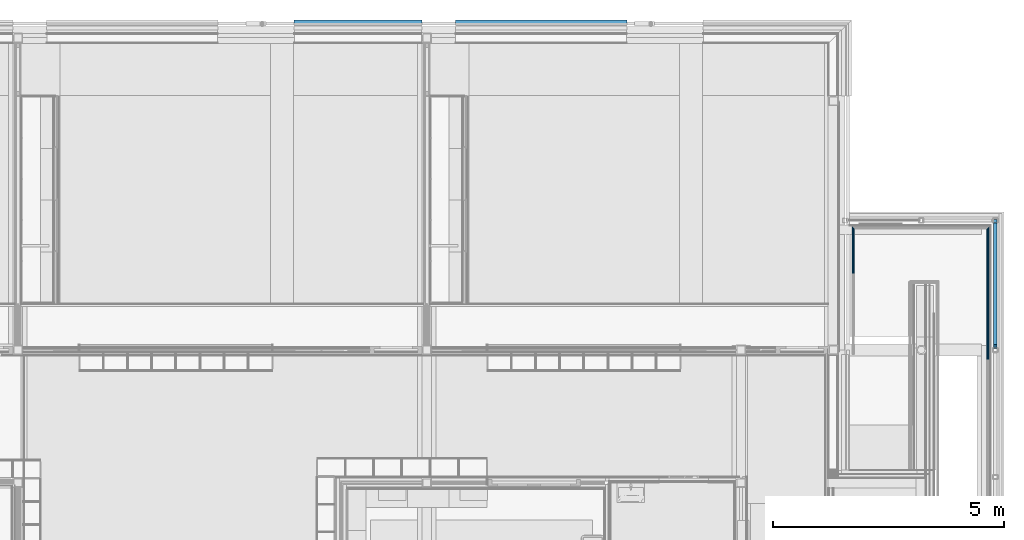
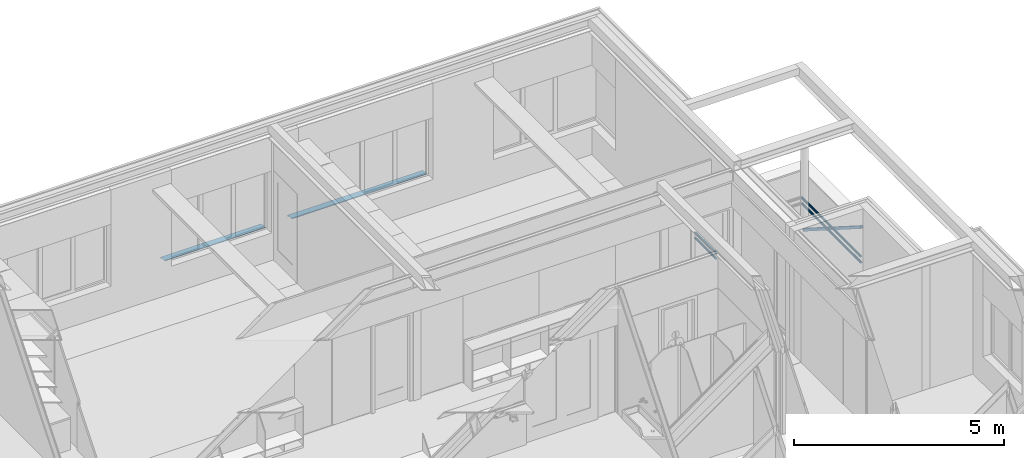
# One storey, part 26 of 137: 4 members, 3 beams, 1 element without a shape of its own.
"""IFC2X3 building model written with IfcOpenShell, lengths in millimetres."""

from ifc_helpers import new_model, entity, si_unit, converted_unit, derived_unit, money_unit, direction, frame, origin_with_axes, place, context, subcontext, project, spatial, faceted_brep, material, type_object, element, aggregate, save


model = new_model("IFC2X3")

# Units and contexts
model_context = context("Model", 3, precision=0.01, world=origin_with_axes(), true_north=direction((0.0, 1.0)))
body_context = subcontext(model_context, "Body", "Model", "MODEL_VIEW")
ifc_project = project(units=[si_unit("LENGTHUNIT", "METRE", prefix="MILLI"), si_unit("AREAUNIT", "SQUARE_METRE"), si_unit("VOLUMEUNIT", "CUBIC_METRE"), converted_unit("PLANEANGLEUNIT", "DEGREE", entity("IfcPlaneAngleMeasure", 0.0174532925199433), si_unit("PLANEANGLEUNIT", "RADIAN"), dimensions=[0, 0, 0, 0, 0, 0, 0]), money_unit("EUR"), converted_unit("TIMEUNIT", "Year", entity("IfcTimeMeasure", 31556926.0), si_unit("TIMEUNIT", "SECOND"), dimensions=[0, 0, 1, 0, 0, 0, 0]), si_unit("MASSUNIT", "GRAM", prefix="KILO"), si_unit("THERMODYNAMICTEMPERATUREUNIT", "DEGREE_CELSIUS"), si_unit("LUMINOUSINTENSITYUNIT", "LUMEN"), si_unit("ENERGYUNIT", "JOULE", prefix="MEGA"), derived_unit("THERMALCONDUCTANCEUNIT", [(si_unit("POWERUNIT", "WATT"), 1), (si_unit("LENGTHUNIT", "METRE"), -1), (si_unit("THERMODYNAMICTEMPERATUREUNIT", "KELVIN"), -1)]), derived_unit("SPECIFICHEATCAPACITYUNIT", [(si_unit("ENERGYUNIT", "JOULE"), 1), (si_unit("MASSUNIT", "GRAM", prefix="KILO"), -1), (si_unit("THERMODYNAMICTEMPERATUREUNIT", "KELVIN"), -1)]), derived_unit("MASSDENSITYUNIT", [(si_unit("MASSUNIT", "GRAM", prefix="KILO"), 1), (si_unit("VOLUMEUNIT", "CUBIC_METRE"), -1)])], contexts=[model_context])

# Site, building, storey
site_placement = place(None, origin_with_axes())
site = spatial("IfcSite", under=ifc_project, at=site_placement, Name="Site", CompositionType="ELEMENT")
building_placement = place(site_placement, origin_with_axes())
building = spatial("IfcBuilding", under=site, at=building_placement, Name="Naam gebouw", CompositionType="ELEMENT")
storey_placement = place(building_placement, frame((0.0, 0.0, 3960.0), z_axis=(0.0, 0.0, 1.0), x_axis=(1.0, 0.0, 0.0)))
storey = spatial("IfcBuildingStorey", under=building, at=storey_placement, Name="1e verdieping", CompositionType="ELEMENT", Elevation=3960.0)

# Beams
ifc_material_1 = material(Name="Metaal - Aluminium")
beam_type_1 = type_object("IfcBeamType", Name="41 Waterslag 218 x 75", PredefinedType="BEAM")
beam_1_placement = place(storey_placement, frame((14824.99942456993, 29425.0, 750.0), z_axis=(0.0, 0.0, 1.0), x_axis=(0.0, -1.0, 0.0)))
element("IfcBeam", 1, at=beam_1_placement, inside=storey, type_object=beam_type_1, material=ifc_material_1, Name="h4 Aluminium, aluminiumlegeringen_Regenwaterafvoer-x", ObjectType="BEAM", context=body_context, shape_type="Brep", body=[
    faceted_brep([(178.0000000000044, 0.0, 49.99999999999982), (178.0000000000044, 2770.0, 49.99999999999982), (175.0000000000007, 2770.0, 49.99999999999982), (175.0000000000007, 0.0, 49.99999999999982), (177.9999999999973, 0.0, 27.27462510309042), (177.9999999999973, 2770.0, 27.27462510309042), (-36.99999999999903, 2770.0, 12.08231741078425), (-36.99999999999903, 2770.0, -21.99999999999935), (-21.99999999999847, 2770.0, -21.99999999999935), (-21.99999999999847, 2770.0, -24.99999999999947), (-39.99999999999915, 2770.0, -24.99999999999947), (-39.99999999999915, 2770.0, 15.00000000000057), (175.0000000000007, 2770.0, 30.00000000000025), (175.0000000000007, 0.0, 30.00000000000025), (-39.99999999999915, 0.0, 15.00000000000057), (-39.99999999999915, 0.0, -24.99999999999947), (-21.99999999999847, 0.0, -24.99999999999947), (-21.99999999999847, 0.0, -21.99999999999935), (-36.99999999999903, 0.0, -21.99999999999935), (-36.99999999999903, 0.0, 12.08231741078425)], [[[0, 1, 2, 3]], [[4, 5, 1, 0]], [[2, 1, 5, 6, 7, 8, 9, 10, 11, 12]], [[3, 2, 12, 13]], [[4, 0, 3, 13, 14, 15, 16, 17, 18, 19]], [[19, 6, 5, 4]], [[18, 7, 6, 19]], [[17, 8, 7, 18]], [[16, 9, 8, 17]], [[15, 10, 9, 16]], [[14, 11, 10, 15]], [[13, 12, 11, 14]]]),
])
beam_2_placement = place(storey_placement, frame((18314.99942456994, 29425.0, 750.0), z_axis=(0.0, 0.0, 1.0), x_axis=(0.0, -1.0, 0.0)))
element("IfcBeam", 2, at=beam_2_placement, inside=storey, type_object=beam_type_1, material=ifc_material_1, Name="h4 Aluminium, aluminiumlegeringen_Regenwaterafvoer-x", ObjectType="BEAM", context=body_context, shape_type="Brep", body=[
    faceted_brep([(178.0000000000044, 0.0, 49.99999999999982), (178.0000000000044, 3719.999999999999, 49.99999999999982), (175.0000000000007, 3719.999999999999, 49.99999999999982), (175.0000000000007, 0.0, 49.99999999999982), (177.9999999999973, 0.0, 27.27462510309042), (177.9999999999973, 3719.999999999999, 27.27462510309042), (-36.99999999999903, 3719.999999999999, 12.08231741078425), (-36.99999999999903, 3719.999999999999, -21.99999999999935), (-21.99999999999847, 3719.999999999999, -21.99999999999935), (-21.99999999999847, 3719.999999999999, -24.99999999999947), (-39.99999999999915, 3719.999999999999, -24.99999999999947), (-39.99999999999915, 3719.999999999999, 15.00000000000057), (175.0000000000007, 3719.999999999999, 30.00000000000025), (175.0000000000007, 0.0, 30.00000000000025), (-39.99999999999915, 0.0, 15.00000000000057), (-39.99999999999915, 0.0, -24.99999999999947), (-21.99999999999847, 0.0, -24.99999999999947), (-21.99999999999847, 0.0, -21.99999999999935), (-36.99999999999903, 0.0, -21.99999999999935), (-36.99999999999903, 0.0, 12.08231741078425)], [[[0, 1, 2, 3]], [[4, 5, 1, 0]], [[2, 1, 5, 6, 7, 8, 9, 10, 11, 12]], [[3, 2, 12, 13]], [[4, 0, 3, 13, 14, 15, 16, 17, 18, 19]], [[19, 6, 5, 4]], [[18, 7, 6, 19]], [[17, 8, 7, 18]], [[16, 9, 8, 17]], [[15, 10, 9, 16]], [[14, 11, 10, 15]], [[13, 12, 11, 14]]]),
])

# Railing, members
railing_type = type_object("IfcRailingType", Name="Railing Type", PredefinedType="NOTDEFINED")
railing_placement = place(storey_placement, frame((29909.99996519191, 18712.73639114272, -3419.999937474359), z_axis=(0.0, 0.0, 1.0), x_axis=(1.0, 0.0, 0.0)))
railing = element("IfcRailing", 3, at=railing_placement, inside=storey, type_object=railing_type, Name="34_Reling-x", PredefinedType="NOTDEFINED")
ifc_material_2 = material(Name="Metaal - RVS")
member_type = type_object("IfcMemberType", Name="IfcMember", PredefinedType="USERDEFINED")
member_1_placement = place(railing_placement, frame((-67.99996519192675, 4832.119917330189, 3352.917960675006), z_axis=(0.0, 0.0, 1.0), x_axis=(1.0, 0.0, 0.0)))
member_1 = element("IfcMember", 4, at=member_1_placement, type_object=member_type, material=ifc_material_2, Name="h3 Staal legeringen_", context=body_context, shape_type="Brep", body=[
    faceted_brep([(-30.00000000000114, -1413.036642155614, 37.08203932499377), (-29.54423259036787, -1414.613935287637, 42.29148465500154), (-29.54423259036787, 1392.575678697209, 42.29148465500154), (-30.00000000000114, 1392.119911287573, 37.08203932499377), (-29.54423259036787, -1411.459349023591, 31.87259399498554), (-28.19077862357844, -1409.929981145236, 26.82143502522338), (-25.98076211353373, -1408.495007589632, 22.08203932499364), (-22.98133329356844, -1407.19802930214, 17.79841103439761), (-19.28362829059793, -1406.078454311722, 14.10070603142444), (-15.00000000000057, -1405.170300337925, 11.10127721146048), (-10.26060429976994, -1404.501161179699, 8.891260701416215), (-5.209445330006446, -1404.091368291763, 7.537806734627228), (0.0, -1403.953373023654, 7.082039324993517), (5.209445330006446, -1404.091368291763, 7.537806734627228), (10.26060429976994, -1404.501161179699, 8.891260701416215), (15.00000000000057, -1405.170300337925, 11.10127721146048), (19.28362829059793, -1406.078454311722, 14.10070603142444), (22.98133329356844, -1407.19802930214, 17.79841103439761), (25.98076211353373, -1408.495007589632, 22.08203932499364), (28.19077862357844, -1409.929981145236, 26.82143502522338), (29.54423259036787, -1411.459349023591, 31.87259399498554), (30.00000000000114, -1413.036642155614, 37.08203932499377), (29.54423259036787, -1414.613935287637, 42.29148465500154), (28.19077862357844, -1416.143303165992, 47.3426436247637), (25.98076211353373, -1417.578276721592, 52.08203932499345), (22.98133329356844, -1418.875255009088, 56.36566761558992), (19.28362829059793, -1419.994829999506, 60.06337261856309), (15.00000000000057, -1420.902983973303, 63.06280143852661), (10.26060429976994, -1421.572123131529, 65.27281794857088), (5.209445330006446, -1421.981916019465, 66.62627191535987), (0.0, -1422.119911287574, 67.08203932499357), (-5.209445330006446, -1421.981916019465, 66.62627191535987), (-10.26060429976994, -1421.572123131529, 65.27281794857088), (-15.00000000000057, -1420.902983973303, 63.06280143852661), (-19.28362829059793, -1419.994829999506, 60.06337261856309), (-22.98133329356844, -1418.875255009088, 56.36566761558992), (-25.98076211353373, -1417.578276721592, 52.08203932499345), (-28.19077862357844, -1416.143303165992, 47.3426436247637), (-28.19077862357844, 1393.929132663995, 47.3426436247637), (-25.98076211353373, 1396.13914917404, 52.08203932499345), (-22.98133329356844, 1399.138577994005, 56.36566761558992), (-19.28362829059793, 1402.836282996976, 60.06337261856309), (-15.00000000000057, 1407.119911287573, 63.06280143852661), (-10.26060429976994, 1411.859306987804, 65.27281794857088), (-5.209445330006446, 1416.910465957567, 66.62627191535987), (0.0, 1422.119911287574, 67.08203932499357), (5.209445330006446, 1427.32935661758, 66.62627191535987), (10.26060429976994, 1432.380515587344, 65.27281794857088), (15.00000000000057, 1437.119911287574, 63.06280143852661), (19.28362829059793, 1441.403539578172, 60.06337261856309), (22.98133329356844, 1445.101244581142, 56.36566761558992), (25.98076211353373, 1448.100673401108, 52.08203932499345), (28.19077862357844, 1450.310689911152, 47.3426436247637), (29.54423259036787, 1451.664143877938, 42.29148465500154), (30.00000000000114, 1452.119911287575, 37.08203932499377), (29.54423259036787, 1451.664143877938, 31.87259399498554), (28.19077862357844, 1450.310689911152, 26.82143502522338), (25.98076211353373, 1448.100673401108, 22.08203932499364), (22.98133329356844, 1445.101244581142, 17.79841103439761), (19.28362829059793, 1441.403539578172, 14.10070603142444), (15.00000000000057, 1437.119911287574, 11.10127721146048), (10.26060429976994, 1432.380515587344, 8.891260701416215), (5.209445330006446, 1427.32935661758, 7.537806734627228), (0.0, 1422.119911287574, 7.082039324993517), (-5.209445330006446, 1416.910465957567, 7.537806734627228), (-10.26060429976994, 1411.859306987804, 8.891260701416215), (-15.00000000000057, 1407.119911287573, 11.10127721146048), (-19.28362829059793, 1402.836282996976, 14.10070603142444), (-22.98133329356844, 1399.138577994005, 17.79841103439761), (-25.98076211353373, 1396.13914917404, 22.08203932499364), (-28.19077862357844, 1393.929132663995, 26.82143502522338), (-29.54423259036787, 1392.575678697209, 31.87259399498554)], [[[0, 1, 2, 3]], [[0, 4, 5, 6, 7, 8, 9, 10, 11, 12, 13, 14, 15, 16, 17, 18, 19, 20, 21, 22, 23, 24, 25, 26, 27, 28, 29, 30, 31, 32, 33, 34, 35, 36, 37, 1]], [[1, 37, 38, 2]], [[3, 2, 38, 39, 40, 41, 42, 43, 44, 45, 46, 47, 48, 49, 50, 51, 52, 53, 54, 55, 56, 57, 58, 59, 60, 61, 62, 63, 64, 65, 66, 67, 68, 69, 70, 71]], [[4, 0, 3, 71]], [[5, 4, 71, 70]], [[6, 5, 70, 69]], [[7, 6, 69, 68]], [[8, 7, 68, 67]], [[9, 8, 67, 66]], [[10, 9, 66, 65]], [[11, 10, 65, 64]], [[12, 11, 64, 63]], [[13, 12, 63, 62]], [[14, 13, 62, 61]], [[15, 14, 61, 60]], [[16, 15, 60, 59]], [[17, 16, 59, 58]], [[18, 17, 58, 57]], [[19, 18, 57, 56]], [[20, 19, 56, 55]], [[21, 20, 55, 54]], [[22, 21, 54, 53]], [[23, 22, 53, 52]], [[24, 23, 52, 51]], [[25, 24, 51, 50]], [[26, 25, 50, 49]], [[27, 26, 49, 48]], [[28, 27, 48, 47]], [[29, 28, 47, 46]], [[30, 29, 46, 45]], [[31, 30, 45, 44]], [[32, 31, 44, 43]], [[33, 32, 43, 42]], [[34, 33, 42, 41]], [[35, 34, 41, 40]], [[36, 35, 40, 39]], [[37, 36, 39, 38]]]),
])
member_2_placement = place(railing_placement, frame((-67.99996519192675, 4832.119917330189, 3177.573593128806), z_axis=(0.0, 0.0, 1.0), x_axis=(1.0, 0.0, 0.0)))
member_2 = element("IfcMember", 5, at=member_2_placement, type_object=member_type, material=ifc_material_2, Name="h3 Staal legeringen_Regel-x", context=body_context, shape_type="Brep", body=[
    faceted_brep([(-30.00000000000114, -1422.119911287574, 42.42640687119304), (-29.54423259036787, -1423.697204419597, 47.63585220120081), (-29.54423259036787, 1392.575678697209, 47.63585220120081), (-30.00000000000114, 1392.119911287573, 42.42640687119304), (-29.54423259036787, -1420.542618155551, 37.21696154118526), (-28.19077862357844, -1419.013250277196, 32.1658025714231), (-25.98076211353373, -1417.578276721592, 27.42640687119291), (-22.98133329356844, -1416.2812984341, 23.14277858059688), (-19.28362829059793, -1415.161723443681, 19.44507357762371), (-15.00000000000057, -1414.253569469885, 16.44564475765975), (-10.26060429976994, -1413.584430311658, 14.23562824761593), (-5.209445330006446, -1413.174637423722, 12.88217428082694), (0.0, -1413.036642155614, 12.42640687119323), (5.209445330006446, -1413.174637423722, 12.88217428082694), (10.26060429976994, -1413.584430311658, 14.23562824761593), (15.00000000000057, -1414.253569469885, 16.44564475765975), (19.28362829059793, -1415.161723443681, 19.44507357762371), (22.98133329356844, -1416.2812984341, 23.14277858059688), (25.98076211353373, -1417.578276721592, 27.42640687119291), (28.19077862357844, -1419.013250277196, 32.1658025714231), (29.54423259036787, -1420.542618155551, 37.21696154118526), (30.00000000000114, -1422.119911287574, 42.42640687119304), (29.54423259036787, -1423.697204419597, 47.63585220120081), (28.19077862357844, -1425.226572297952, 52.68701117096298), (25.98076211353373, -1426.661545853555, 57.42640687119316), (22.98133329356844, -1427.958524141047, 61.71003516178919), (19.28362829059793, -1429.078099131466, 65.40774016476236), (15.00000000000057, -1429.986253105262, 68.40716898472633), (10.26060429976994, -1430.655392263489, 70.61718549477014), (5.209445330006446, -1431.065185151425, 71.97063946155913), (0.0, -1431.203180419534, 72.42640687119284), (-5.209445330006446, -1431.065185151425, 71.97063946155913), (-10.26060429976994, -1430.655392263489, 70.61718549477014), (-15.00000000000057, -1429.986253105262, 68.40716898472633), (-19.28362829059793, -1429.078099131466, 65.40774016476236), (-22.98133329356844, -1427.958524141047, 61.71003516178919), (-25.98076211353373, -1426.661545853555, 57.42640687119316), (-28.19077862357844, -1425.226572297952, 52.68701117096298), (-28.19077862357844, 1393.929132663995, 52.68701117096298), (-25.98076211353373, 1396.13914917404, 57.42640687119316), (-22.98133329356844, 1399.138577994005, 61.71003516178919), (-19.28362829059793, 1402.836282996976, 65.40774016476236), (-15.00000000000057, 1407.119911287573, 68.40716898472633), (-10.26060429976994, 1411.859306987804, 70.61718549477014), (-5.209445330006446, 1416.910465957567, 71.97063946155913), (0.0, 1422.119911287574, 72.42640687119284), (5.209445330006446, 1427.32935661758, 71.97063946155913), (10.26060429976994, 1432.380515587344, 70.61718549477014), (15.00000000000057, 1437.119911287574, 68.40716898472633), (19.28362829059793, 1441.403539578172, 65.40774016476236), (22.98133329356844, 1445.101244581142, 61.71003516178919), (25.98076211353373, 1448.100673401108, 57.42640687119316), (28.19077862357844, 1450.310689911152, 52.68701117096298), (29.54423259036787, 1451.664143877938, 47.63585220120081), (30.00000000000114, 1452.119911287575, 42.42640687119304), (29.54423259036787, 1451.664143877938, 37.21696154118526), (28.19077862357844, 1450.310689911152, 32.1658025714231), (25.98076211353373, 1448.100673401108, 27.42640687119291), (22.98133329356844, 1445.101244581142, 23.14277858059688), (19.28362829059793, 1441.403539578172, 19.44507357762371), (15.00000000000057, 1437.119911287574, 16.44564475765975), (10.26060429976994, 1432.380515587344, 14.23562824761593), (5.209445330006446, 1427.32935661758, 12.88217428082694), (0.0, 1422.119911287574, 12.42640687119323), (-5.209445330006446, 1416.910465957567, 12.88217428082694), (-10.26060429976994, 1411.859306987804, 14.23562824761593), (-15.00000000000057, 1407.119911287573, 16.44564475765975), (-19.28362829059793, 1402.836282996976, 19.44507357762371), (-22.98133329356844, 1399.138577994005, 23.14277858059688), (-25.98076211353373, 1396.13914917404, 27.42640687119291), (-28.19077862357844, 1393.929132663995, 32.1658025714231), (-29.54423259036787, 1392.575678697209, 37.21696154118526)], [[[0, 1, 2, 3]], [[0, 4, 5, 6, 7, 8, 9, 10, 11, 12, 13, 14, 15, 16, 17, 18, 19, 20, 21, 22, 23, 24, 25, 26, 27, 28, 29, 30, 31, 32, 33, 34, 35, 36, 37, 1]], [[1, 37, 38, 2]], [[3, 2, 38, 39, 40, 41, 42, 43, 44, 45, 46, 47, 48, 49, 50, 51, 52, 53, 54, 55, 56, 57, 58, 59, 60, 61, 62, 63, 64, 65, 66, 67, 68, 69, 70, 71]], [[4, 0, 3, 71]], [[5, 4, 71, 70]], [[6, 5, 70, 69]], [[7, 6, 69, 68]], [[8, 7, 68, 67]], [[9, 8, 67, 66]], [[10, 9, 66, 65]], [[11, 10, 65, 64]], [[12, 11, 64, 63]], [[13, 12, 63, 62]], [[14, 13, 62, 61]], [[15, 14, 61, 60]], [[16, 15, 60, 59]], [[17, 16, 59, 58]], [[18, 17, 58, 57]], [[19, 18, 57, 56]], [[20, 19, 56, 55]], [[21, 20, 55, 54]], [[22, 21, 54, 53]], [[23, 22, 53, 52]], [[24, 23, 52, 51]], [[25, 24, 51, 50]], [[26, 25, 50, 49]], [[27, 26, 49, 48]], [[28, 27, 48, 47]], [[29, 28, 47, 46]], [[30, 29, 46, 45]], [[31, 30, 45, 44]], [[32, 31, 44, 43]], [[33, 32, 43, 42]], [[34, 33, 42, 41]], [[35, 34, 41, 40]], [[36, 35, 40, 39]], [[37, 36, 39, 38]]]),
])
member_3_placement = place(railing_placement, frame((-2979.999965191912, 5768.239830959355, 3352.917960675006), z_axis=(0.0, 0.0, 1.0), x_axis=(1.0, 0.0, 0.0)))
member_3 = element("IfcMember", 6, at=member_3_placement, type_object=member_type, material=ifc_material_2, Name="h3 Staal legeringen_", context=body_context, shape_type="Brep", body=[
    faceted_brep([(30.00000000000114, 455.999997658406, 37.08203932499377), (29.54423259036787, 456.4557650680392, 42.29148465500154), (29.54423259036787, -493.505973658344, 42.29148465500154), (30.00000000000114, -495.0832667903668, 37.08203932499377), (29.54423259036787, 456.4557650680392, 31.87259399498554), (28.19077862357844, 457.8092190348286, 26.82143502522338), (25.98076211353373, 460.0192355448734, 22.08203932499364), (22.98133329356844, 463.0186643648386, 17.79841103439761), (19.28362829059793, 466.7163693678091, 14.10070603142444), (15.00000000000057, 470.9999976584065, 11.10127721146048), (10.26060429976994, 475.7393933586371, 8.891260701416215), (5.209445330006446, 480.7905523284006, 7.537806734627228), (0.0, 485.9999976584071, 7.082039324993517), (-5.209445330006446, 491.2094429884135, 7.537806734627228), (-10.26060429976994, 496.260601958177, 8.891260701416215), (-15.00000000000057, 500.9999976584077, 11.10127721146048), (-19.28362829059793, 505.283625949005, 14.10070603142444), (-22.98133329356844, 508.9813309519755, 17.79841103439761), (-25.98076211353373, 511.9807597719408, 22.08203932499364), (-28.19077862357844, 514.1907762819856, 26.82143502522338), (-29.54423259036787, 515.544230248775, 31.87259399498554), (-30.00000000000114, 515.9999976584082, 37.08203932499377), (-29.54423259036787, 515.544230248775, 42.29148465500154), (-28.19077862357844, 514.1907762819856, 47.3426436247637), (-25.98076211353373, 511.9807597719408, 52.08203932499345), (-22.98133329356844, 508.9813309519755, 56.36566761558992), (-19.28362829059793, 505.283625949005, 60.06337261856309), (-15.00000000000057, 500.9999976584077, 63.06280143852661), (-10.26060429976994, 496.260601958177, 65.27281794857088), (-5.209445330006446, 491.2094429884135, 66.62627191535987), (0.0, 485.9999976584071, 67.08203932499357), (5.209445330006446, 480.7905523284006, 66.62627191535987), (10.26060429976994, 475.7393933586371, 65.27281794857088), (15.00000000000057, 470.9999976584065, 63.06280143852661), (19.28362829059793, 466.7163693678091, 60.06337261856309), (22.98133329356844, 463.0186643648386, 56.36566761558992), (25.98076211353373, 460.0192355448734, 52.08203932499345), (28.19077862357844, 457.8092190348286, 47.3426436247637), (28.19077862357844, -491.976605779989, 47.3426436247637), (25.98076211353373, -490.5416322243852, 52.08203932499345), (22.98133329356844, -489.2446539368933, 56.36566761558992), (19.28362829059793, -488.1250789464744, 60.06337261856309), (15.00000000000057, -487.2169249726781, 63.06280143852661), (10.26060429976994, -486.5477858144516, 65.27281794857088), (5.209445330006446, -486.1379929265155, 66.62627191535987), (0.0, -485.9999976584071, 67.08203932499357), (-5.209445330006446, -486.1379929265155, 66.62627191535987), (-10.26060429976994, -486.5477858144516, 65.27281794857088), (-15.00000000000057, -487.2169249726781, 63.06280143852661), (-19.28362829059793, -488.1250789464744, 60.06337261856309), (-22.98133329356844, -489.2446539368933, 56.36566761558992), (-25.98076211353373, -490.5416322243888, 52.08203932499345), (-28.19077862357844, -491.976605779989, 47.3426436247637), (-29.54423259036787, -493.505973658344, 42.29148465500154), (-30.00000000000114, -495.0832667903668, 37.08203932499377), (-29.54423259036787, -496.6605599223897, 31.87259399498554), (-28.19077862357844, -498.1899278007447, 26.82143502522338), (-25.98076211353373, -499.6249013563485, 22.08203932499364), (-22.98133329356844, -500.9218796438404, 17.79841103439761), (-19.28362829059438, -502.0414546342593, 14.10070603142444), (-15.00000000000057, -502.9496086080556, 11.10127721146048), (-10.26060429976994, -503.6187477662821, 8.891260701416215), (-5.209445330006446, -504.0285406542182, 7.537806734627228), (0.0, -504.1665359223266, 7.082039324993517), (5.209445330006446, -504.0285406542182, 7.537806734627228), (10.26060429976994, -503.6187477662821, 8.891260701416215), (15.00000000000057, -502.9496086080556, 11.10127721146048), (19.28362829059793, -502.0414546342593, 14.10070603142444), (22.98133329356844, -500.9218796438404, 17.79841103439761), (25.98076211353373, -499.6249013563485, 22.08203932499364), (28.19077862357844, -498.1899278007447, 26.82143502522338), (29.54423259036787, -496.6605599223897, 31.87259399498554)], [[[0, 1, 2, 3]], [[0, 4, 5, 6, 7, 8, 9, 10, 11, 12, 13, 14, 15, 16, 17, 18, 19, 20, 21, 22, 23, 24, 25, 26, 27, 28, 29, 30, 31, 32, 33, 34, 35, 36, 37, 1]], [[1, 37, 38, 2]], [[3, 2, 38, 39, 40, 41, 42, 43, 44, 45, 46, 47, 48, 49, 50, 51, 52, 53, 54, 55, 56, 57, 58, 59, 60, 61, 62, 63, 64, 65, 66, 67, 68, 69, 70, 71]], [[4, 0, 3, 71]], [[5, 4, 71, 70]], [[6, 5, 70, 69]], [[7, 6, 69, 68]], [[8, 7, 68, 67]], [[9, 8, 67, 66]], [[10, 9, 66, 65]], [[11, 10, 65, 64]], [[12, 11, 64, 63]], [[13, 12, 63, 62]], [[14, 13, 62, 61]], [[15, 14, 61, 60]], [[16, 15, 60, 59]], [[17, 16, 59, 58]], [[18, 17, 58, 57]], [[19, 18, 57, 56]], [[20, 19, 56, 55]], [[21, 20, 55, 54]], [[22, 21, 54, 53]], [[23, 22, 53, 52]], [[24, 23, 52, 51]], [[25, 24, 51, 50]], [[26, 25, 50, 49]], [[27, 26, 49, 48]], [[28, 27, 48, 47]], [[29, 28, 47, 46]], [[30, 29, 46, 45]], [[31, 30, 45, 44]], [[32, 31, 44, 43]], [[33, 32, 43, 42]], [[34, 33, 42, 41]], [[35, 34, 41, 40]], [[36, 35, 40, 39]], [[37, 36, 39, 38]]]),
])
member_4_placement = place(railing_placement, frame((-2979.999965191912, 5768.239830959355, 3177.573593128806), z_axis=(0.0, 0.0, 1.0), x_axis=(1.0, 0.0, 0.0)))
member_4 = element("IfcMember", 7, at=member_4_placement, type_object=member_type, material=ifc_material_2, Name="h3 Staal legeringen_Regel-x", context=body_context, shape_type="Brep", body=[
    faceted_brep([(30.00000000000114, 455.999997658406, 42.42640687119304), (29.54423259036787, 456.4557650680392, 47.63585220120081), (29.54423259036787, -484.4227045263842, 47.63585220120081), (30.00000000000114, -485.9999976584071, 42.42640687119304), (29.54423259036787, 456.4557650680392, 37.21696154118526), (28.19077862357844, 457.8092190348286, 32.1658025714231), (25.98076211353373, 460.0192355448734, 27.42640687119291), (22.98133329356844, 463.0186643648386, 23.14277858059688), (19.28362829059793, 466.7163693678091, 19.44507357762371), (15.00000000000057, 470.9999976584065, 16.44564475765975), (10.26060429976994, 475.7393933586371, 14.23562824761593), (5.209445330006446, 480.7905523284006, 12.88217428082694), (0.0, 485.9999976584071, 12.42640687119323), (-5.209445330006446, 491.2094429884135, 12.88217428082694), (-10.26060429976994, 496.260601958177, 14.23562824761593), (-15.00000000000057, 500.9999976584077, 16.44564475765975), (-19.28362829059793, 505.283625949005, 19.44507357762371), (-22.98133329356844, 508.9813309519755, 23.14277858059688), (-25.98076211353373, 511.9807597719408, 27.42640687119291), (-28.19077862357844, 514.1907762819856, 32.1658025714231), (-29.54423259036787, 515.544230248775, 37.21696154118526), (-30.00000000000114, 515.9999976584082, 42.42640687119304), (-29.54423259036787, 515.544230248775, 47.63585220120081), (-28.19077862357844, 514.1907762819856, 52.68701117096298), (-25.98076211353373, 511.9807597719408, 57.42640687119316), (-22.98133329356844, 508.9813309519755, 61.71003516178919), (-19.28362829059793, 505.283625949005, 65.40774016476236), (-15.00000000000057, 500.9999976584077, 68.40716898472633), (-10.26060429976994, 496.260601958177, 70.61718549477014), (-5.209445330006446, 491.2094429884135, 71.97063946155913), (0.0, 485.9999976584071, 72.42640687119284), (5.209445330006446, 480.7905523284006, 71.97063946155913), (10.26060429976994, 475.7393933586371, 70.61718549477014), (15.00000000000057, 470.9999976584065, 68.40716898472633), (19.28362829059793, 466.7163693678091, 65.40774016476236), (22.98133329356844, 463.0186643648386, 61.71003516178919), (25.98076211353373, 460.0192355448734, 57.42640687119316), (28.19077862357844, 457.8092190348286, 52.68701117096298), (28.19077862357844, -482.8933366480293, 52.68701117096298), (25.98076211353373, -481.4583630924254, 57.42640687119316), (22.98133329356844, -480.1613848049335, 61.71003516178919), (19.28362829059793, -479.0418098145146, 65.40774016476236), (15.00000000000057, -478.1336558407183, 68.40716898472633), (10.26060429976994, -477.4645166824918, 70.61718549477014), (5.209445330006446, -477.0547237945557, 71.97063946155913), (0.0, -476.9167285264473, 72.42640687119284), (-5.209445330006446, -477.0547237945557, 71.97063946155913), (-10.26060429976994, -477.4645166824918, 70.61718549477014), (-15.00000000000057, -478.1336558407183, 68.40716898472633), (-19.28362829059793, -479.0418098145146, 65.40774016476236), (-22.98133329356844, -480.1613848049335, 61.71003516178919), (-25.98076211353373, -481.458363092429, 57.42640687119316), (-28.19077862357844, -482.8933366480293, 52.68701117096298), (-29.54423259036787, -484.4227045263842, 47.63585220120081), (-30.00000000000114, -485.9999976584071, 42.42640687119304), (-29.54423259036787, -487.5772907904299, 37.21696154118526), (-28.19077862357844, -489.1066586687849, 32.1658025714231), (-25.98076211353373, -490.5416322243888, 27.42640687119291), (-22.98133329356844, -491.8386105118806, 23.14277858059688), (-19.28362829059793, -492.9581855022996, 19.44507357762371), (-15.00000000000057, -493.8663394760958, 16.44564475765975), (-10.26060429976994, -494.5354786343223, 14.23562824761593), (-5.209445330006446, -494.9452715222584, 12.88217428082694), (0.0, -495.0832667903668, 12.42640687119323), (5.209445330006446, -494.9452715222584, 12.88217428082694), (10.26060429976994, -494.5354786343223, 14.23562824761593), (15.00000000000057, -493.8663394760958, 16.44564475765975), (19.28362829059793, -492.9581855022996, 19.44507357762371), (22.98133329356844, -491.8386105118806, 23.14277858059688), (25.98076211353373, -490.5416322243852, 27.42640687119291), (28.19077862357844, -489.1066586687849, 32.1658025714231), (29.54423259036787, -487.5772907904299, 37.21696154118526)], [[[0, 1, 2, 3]], [[0, 4, 5, 6, 7, 8, 9, 10, 11, 12, 13, 14, 15, 16, 17, 18, 19, 20, 21, 22, 23, 24, 25, 26, 27, 28, 29, 30, 31, 32, 33, 34, 35, 36, 37, 1]], [[1, 37, 38, 2]], [[3, 2, 38, 39, 40, 41, 42, 43, 44, 45, 46, 47, 48, 49, 50, 51, 52, 53, 54, 55, 56, 57, 58, 59, 60, 61, 62, 63, 64, 65, 66, 67, 68, 69, 70, 71]], [[4, 0, 3, 71]], [[5, 4, 71, 70]], [[6, 5, 70, 69]], [[7, 6, 69, 68]], [[8, 7, 68, 67]], [[9, 8, 67, 66]], [[10, 9, 66, 65]], [[11, 10, 65, 64]], [[12, 11, 64, 63]], [[13, 12, 63, 62]], [[14, 13, 62, 61]], [[15, 14, 61, 60]], [[16, 15, 60, 59]], [[17, 16, 59, 58]], [[18, 17, 58, 57]], [[19, 18, 57, 56]], [[20, 19, 56, 55]], [[21, 20, 55, 54]], [[22, 21, 54, 53]], [[23, 22, 53, 52]], [[24, 23, 52, 51]], [[25, 24, 51, 50]], [[26, 25, 50, 49]], [[27, 26, 49, 48]], [[28, 27, 48, 47]], [[29, 28, 47, 46]], [[30, 29, 46, 45]], [[31, 30, 45, 44]], [[32, 31, 44, 43]], [[33, 32, 43, 42]], [[34, 33, 42, 41]], [[35, 34, 41, 40]], [[36, 35, 40, 39]], [[37, 36, 39, 38]]]),
])
aggregate(railing, [member_1, member_2, member_3, member_4])

# Beam
ifc_material_3 = material(Name="Metaal - Staal C")
beam_type_2 = type_object("IfcBeamType", Name="70x70x5 70 x 70", PredefinedType="BEAM")
beam_3_placement = place(storey_placement, frame((30000.00000000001, 25124.99984707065, -1120.00000000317), z_axis=(0.0, 0.0, 1.0), x_axis=(-1.0, 0.0, 0.0)))
element("IfcBeam", 8, at=beam_3_placement, inside=storey, type_object=beam_type_2, material=ifc_material_3, Name="h METAAL_Regenwaterafvoer-x", ObjectType="BEAM", context=body_context, shape_type="Brep", body=[
    faceted_brep([(-30.00000000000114, 50.02362731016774, 67.27229685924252), (-30.00000000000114, 50.02362731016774, 1.341422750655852e-05), (-30.00000000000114, 45.02362731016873, 1.341422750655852e-05), (-30.00000000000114, 45.02362731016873, 64.09956958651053), (-29.99999999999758, -16.07347037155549, 25.33068396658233), (-30.00000000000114, 16.07347037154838, -25.33068396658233), (-30.00000000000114, 2766.073470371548, 1719.669316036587), (-30.00000000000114, 2749.999999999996, 1745.00000000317), (-30.00000000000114, 2694.00711363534, 1745.00000000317), (35.00000000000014, 50.02362731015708, 1.341422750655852e-05), (35.00000000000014, 50.02362731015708, 73.19396878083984), (-35.00000000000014, 50.02362731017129, 73.19396878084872), (-35.00000000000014, 50.02362731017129, 1.341422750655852e-05), (30.00000000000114, 50.02362731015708, 67.27229685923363), (30.00000000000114, 50.02362731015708, 1.341422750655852e-05), (-34.99999999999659, 45.02362731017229, 1.341422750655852e-05), (-35.00000000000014, 45.02362731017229, 70.02124150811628), (35.00000000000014, 45.02362731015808, 70.02124150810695), (35.00000000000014, 45.02362731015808, 1.341422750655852e-05), (30.00000000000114, 45.02362731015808, 1.341422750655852e-05), (30.00000000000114, 45.02362731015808, 64.09956958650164), (30.00000000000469, -16.07347037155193, 25.33068396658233), (35.00000000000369, 18.75238210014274, -29.55246462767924), (35.00000000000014, -18.75238210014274, 29.55246462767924), (-35.00000000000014, -18.75238210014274, 29.55246462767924), (-34.99999999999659, 18.75238210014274, -29.55246462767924), (30.00000000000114, 16.07347037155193, -25.33068396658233), (30.00000000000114, 2766.073470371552, 1719.669316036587), (30.00000000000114, 2750.0, 1745.00000000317), (35.00000000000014, 2750.0, 1745.00000000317), (35.00000000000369, 2768.752382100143, 1715.44753537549), (-34.99999999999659, 2768.752382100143, 1715.44753537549), (-35.00000000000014, 2750.0, 1745.00000000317), (-34.99999999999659, 2684.674965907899, 1745.00000000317), (35.00000000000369, 2684.674965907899, 1745.00000000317), (30.00000000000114, 2694.00711363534, 1745.00000000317)], [[[0, 1, 2, 3, 4, 5, 6, 7, 8]], [[9, 10, 11, 12, 1, 0, 13, 14]], [[1, 12, 15, 2]], [[2, 15, 16, 17, 18, 19, 20, 3]], [[4, 3, 20, 21]], [[22, 23, 24, 25], [4, 21, 26, 5]], [[6, 5, 26, 27]], [[6, 27, 28, 29, 30, 31, 32, 7]], [[8, 7, 32, 33, 34, 29, 28, 35]], [[35, 13, 0, 8]], [[9, 18, 17, 23, 22, 30, 29, 34, 10]], [[33, 11, 10, 34]], [[15, 12, 11, 33, 32, 31, 25, 24, 16]], [[19, 14, 13, 35, 28, 27, 26, 21, 20]], [[9, 14, 19, 18]], [[23, 17, 16, 24]], [[30, 22, 25, 31]]]),
    faceted_brep([(-35.00000000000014, 2731.247617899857, 1774.552464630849), (-35.00000000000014, 2746.827272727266, 1750.00000000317), (-35.00000000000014, 2692.554622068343, 1750.00000000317), (-29.99999999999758, 2733.926529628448, 1770.330683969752), (-30.00000000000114, 2746.827272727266, 1750.00000000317), (35.00000000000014, 2731.247617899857, 1774.552464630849), (35.00000000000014, 2746.827272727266, 1750.00000000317), (30.00000000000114, 2746.827272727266, 1750.00000000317), (30.00000000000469, 2733.926529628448, 1770.330683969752), (35.00000000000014, 2692.554622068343, 1750.00000000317), (-29.99999999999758, 2701.886769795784, 1750.00000000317), (30.00000000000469, 2701.886769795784, 1750.00000000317)], [[[0, 1, 2]], [[3, 4, 1, 0, 5, 6, 7, 8]], [[6, 9, 2, 1, 4, 10, 11, 7]], [[0, 2, 9, 5]], [[3, 10, 4]], [[5, 9, 6]], [[8, 7, 11]], [[8, 11, 10, 3]]]),
])

save(model, "model.ifc")
